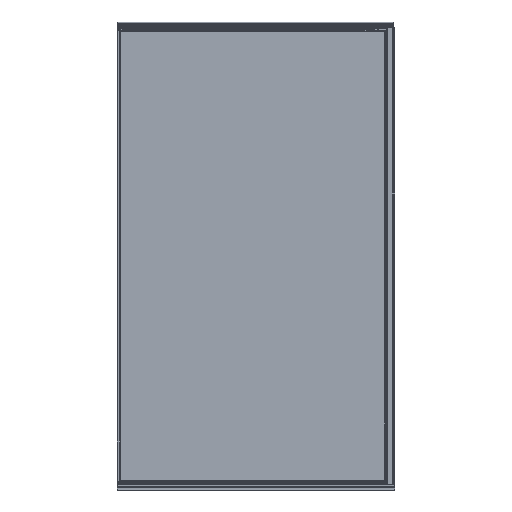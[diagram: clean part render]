
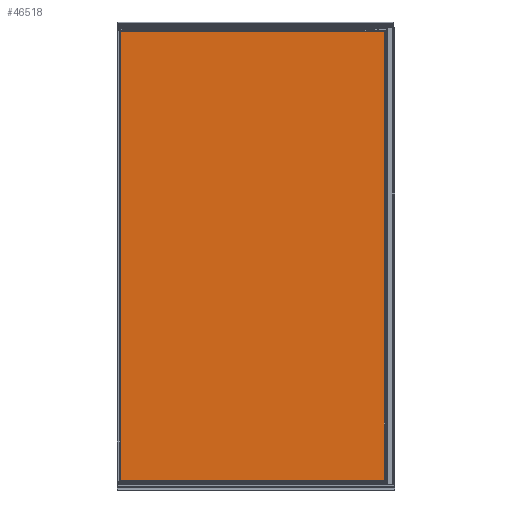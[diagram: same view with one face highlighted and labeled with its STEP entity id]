
A CAD part, front view. The second image highlights one B-rep face of the part: STEP entity #46518.
In plain terms, the highlighted planar face has unit normal (0, -1, 0).
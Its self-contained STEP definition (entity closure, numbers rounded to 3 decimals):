
#2126=PLANE('',#49569);
#3456=FACE_OUTER_BOUND('',#6159,.T.);
#6159=EDGE_LOOP('',(#30278,#30279,#30280,#30281));
#9184=LINE('',#69342,#12233);
#9188=LINE('',#69349,#12237);
#9191=LINE('',#69355,#12240);
#9193=LINE('',#69358,#12242);
#12233=VECTOR('',#55937,10.);
#12237=VECTOR('',#55943,10.);
#12240=VECTOR('',#55948,10.);
#12242=VECTOR('',#55952,10.);
#17825=VERTEX_POINT('',#69339);
#17826=VERTEX_POINT('',#69341);
#17828=VERTEX_POINT('',#69347);
#17830=VERTEX_POINT('',#69353);
#22409=EDGE_CURVE('',#17825,#17826,#9184,.T.);
#22413=EDGE_CURVE('',#17828,#17825,#9188,.T.);
#22416=EDGE_CURVE('',#17830,#17828,#9191,.T.);
#22418=EDGE_CURVE('',#17826,#17830,#9193,.T.);
#30278=ORIENTED_EDGE('',*,*,#22418,.F.);
#30279=ORIENTED_EDGE('',*,*,#22409,.F.);
#30280=ORIENTED_EDGE('',*,*,#22413,.F.);
#30281=ORIENTED_EDGE('',*,*,#22416,.F.);
#46518=ADVANCED_FACE('',(#3456),#2126,.F.);
#49569=AXIS2_PLACEMENT_3D('',#69359,#55953,#55954);
#55937=DIRECTION('',(-1.,0.,0.));
#55943=DIRECTION('',(0.,0.,-1.));
#55948=DIRECTION('',(1.,0.,0.));
#55952=DIRECTION('',(0.,0.,1.));
#55953=DIRECTION('center_axis',(0.,1.,0.));
#55954=DIRECTION('ref_axis',(0.,0.,
1.));
#69339=CARTESIAN_POINT('',(-31.5,9.3,-885.));
#69341=CARTESIAN_POINT('',(-1080.5,9.3,-885.));
#69342=CARTESIAN_POINT('',(-31.5,9.3,-885.));
#69347=CARTESIAN_POINT('',(-31.5,9.3,885.));
#69349=CARTESIAN_POINT('',(-31.5,9.3,885.));
#69353=CARTESIAN_POINT('',(-1080.5,9.3,885.));
#69355=CARTESIAN_POINT('',(-1080.5,9.3,885.));
#69358=CARTESIAN_POINT('',(-1080.5,9.3,-885.));
#69359=CARTESIAN_POINT('Origin',(-556.,9.3,0.));
